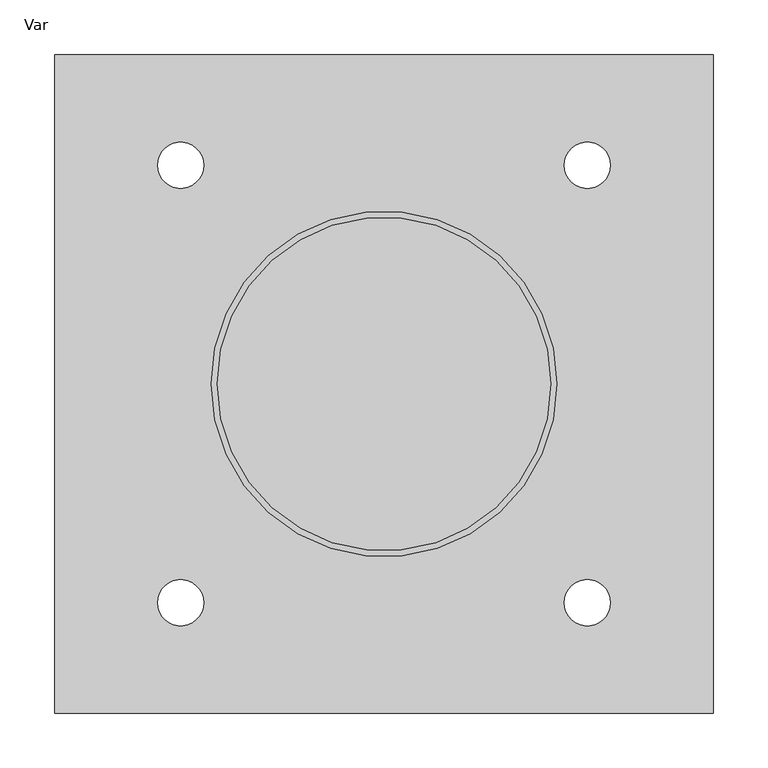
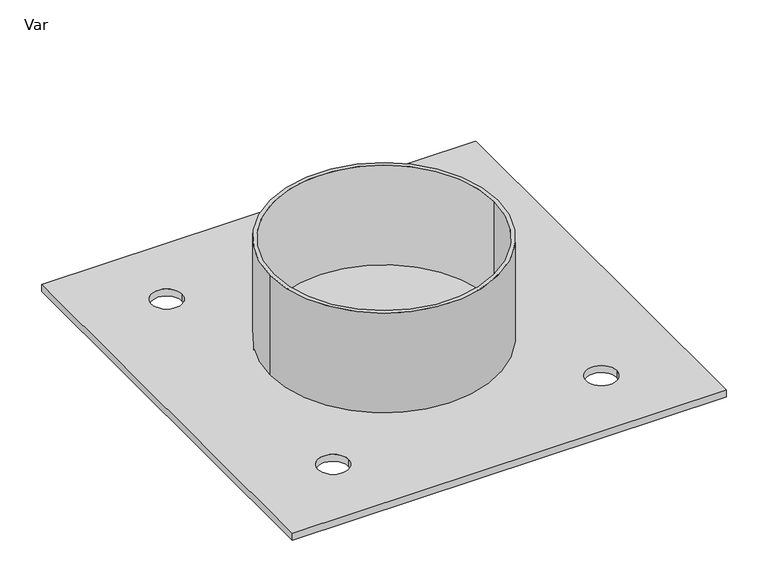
"""IFC4 building model written with IfcOpenShell, lengths in millimetres: pipe fitting geometry, AmancoWavin_ConexõesdeTubos_AquacellNG_AdaptadorSuperior : Var."""

from ifc_helpers import new_model, si_unit, point, frame_2d, origin, origin_with_axes, origin_2d, place, context, project, spatial, polyline, circle_curve, trimmed, segment, composite_curve, outline, extrude, source, transform, mapped, element, save


def var_cac67b6a(model_context):
    return source(origin(), model_context, "Body", "SweptSolid", [
        extrude(outline(composite_curve([segment(trimmed(circle_curve(origin_2d(), 157.5), [point((-157.5, 0.0))], [point((157.5, 0.0))], False, "CARTESIAN"), True, "CONTINUOUS"), segment(trimmed(circle_curve(origin_2d(), 157.5), [point((157.5, 0.0))], [point((-157.5, 0.0))], False, "CARTESIAN"), True, "CONTINUOUS")], self_intersect=False), holes=[composite_curve([segment(trimmed(circle_curve(origin_2d(), 152.0), [point((-152.0, 0.0))], [point((152.0, 0.0))], True, "CARTESIAN"), True, "CONTINUOUS"), segment(trimmed(circle_curve(origin_2d(), 152.0), [point((152.0, 0.0))], [point((-152.0, 0.0))], True, "CARTESIAN"), True, "CONTINUOUS")], self_intersect=False)]), origin_with_axes(), (0.0, 0.0, 1.0), 155.5),
        extrude(outline(polyline([(-300.0, -300.0), (-300.0, 300.0), (300.0, 300.0), (300.0, -300.0), (-300.0, -300.0)]), holes=[composite_curve([segment(trimmed(circle_curve(frame_2d((-185.4121869, 199.3986999)), 21.0), [point((-206.4121869, 199.3986999))], [point((-164.4121869, 199.3986999))], True, "CARTESIAN"), True, "CONTINUOUS"), segment(trimmed(circle_curve(frame_2d((-185.4121869, 199.3986999)), 21.0), [point((-164.4121869, 199.3986999))], [point((-206.4121869, 199.3986999))], True, "CARTESIAN"), True, "CONTINUOUS")], self_intersect=False), composite_curve([segment(trimmed(circle_curve(frame_2d((185.4121869, 199.3986999)), 21.0), [point((164.4121869, 199.3986999))], [point((206.4121869, 199.3986999))], True, "CARTESIAN"), True, "CONTINUOUS"), segment(trimmed(circle_curve(frame_2d((185.4121869, 199.3986999)), 21.0), [point((206.4121869, 199.3986999))], [point((164.4121869, 199.3986999))], True, "CARTESIAN"), True, "CONTINUOUS")], self_intersect=False), composite_curve([segment(trimmed(circle_curve(frame_2d((185.4121869, -199.3986999)), 21.0), [point((164.4121869, -199.3986999))], [point((206.4121869, -199.3986999))], True, "CARTESIAN"), True, "CONTINUOUS"), segment(trimmed(circle_curve(frame_2d((185.4121869, -199.3986999)), 21.0), [point((206.4121869, -199.3986999))], [point((164.4121869, -199.3986999))], True, "CARTESIAN"), True, "CONTINUOUS")], self_intersect=False), composite_curve([segment(trimmed(circle_curve(frame_2d((-185.4121869, -199.3986999)), 21.0), [point((-206.4121869, -199.3986999))], [point((-164.4121869, -199.3986999))], True, "CARTESIAN"), True, "CONTINUOUS"), segment(trimmed(circle_curve(frame_2d((-185.4121869, -199.3986999)), 21.0), [point((-164.4121869, -199.3986999))], [point((-206.4121869, -199.3986999))], True, "CARTESIAN"), True, "CONTINUOUS")], self_intersect=False)]), origin_with_axes(), (0.0, 0.0, 1.0), 10.0),
    ])


if __name__ == "__main__":
    model = new_model("IFC4")
    model_context = context("Model", 3, world=origin())
    ifc_project = project(units=[si_unit("LENGTHUNIT", "METRE", prefix="MILLI")], contexts=[model_context])
    site = spatial("IfcSite", under=ifc_project)
    building = spatial("IfcBuilding", under=site)
    placement = place(None, origin())
    var_shape = var_cac67b6a(model_context)
    element("IfcPipeFitting", 1, ObjectType="AmancoWavin_ConexõesdeTubos_AquacellNG_AdaptadorSuperior : Var", at=placement, inside=building, context=model_context, shape_type="MappedRepresentation", body=[
        mapped(var_shape, transform((0.0, 0.0, 0.0), x_axis=(1.0, 0.0, 0.0), y_axis=(0.0, 1.0, 0.0), z_axis=(0.0, 0.0, 1.0))),
    ])
    save(model, "model.ifc")
